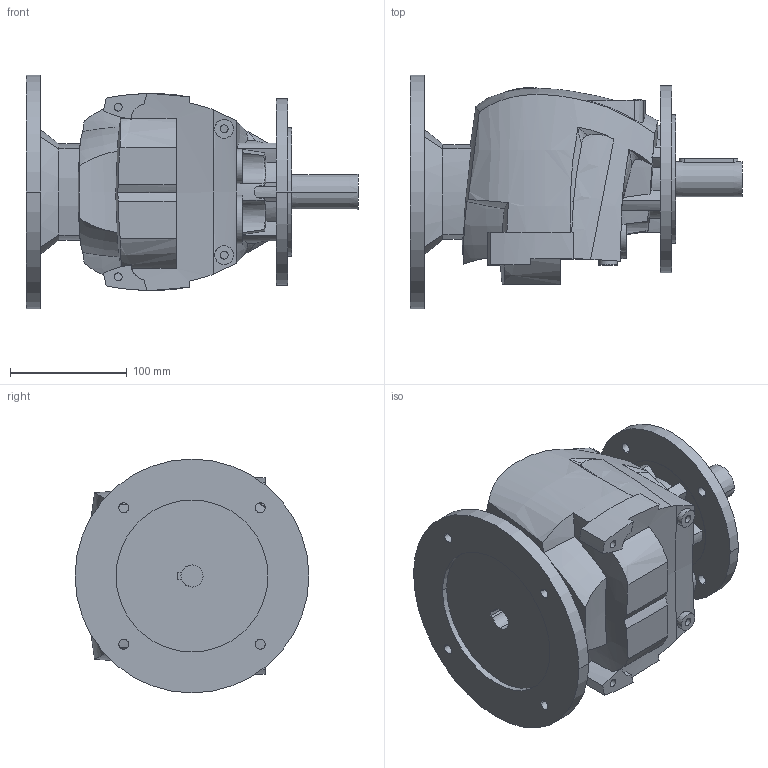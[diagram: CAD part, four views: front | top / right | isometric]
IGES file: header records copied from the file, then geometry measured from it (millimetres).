
Start section:  PTC IGES file: r25_160_pam80_d2.igs
Global section: file name: r25_160_pam80_d2.igs; native system: Pro/ENGINEER by Parametric Technology Corporation; preprocessor: 2008230; author: Luca; organization: Unknown; date: 20131217.170341; units: millimetre
Bounding box: 284 x 200 x 200 mm (x, y, z)
Volume: 3704008.9 mm3; surface area: 249933.8 mm2
Topology: 1 solids, 7 shells, 406 faces, 1081 edges, 721 vertices
Faces by surface type: bspline 250, revolution 156
